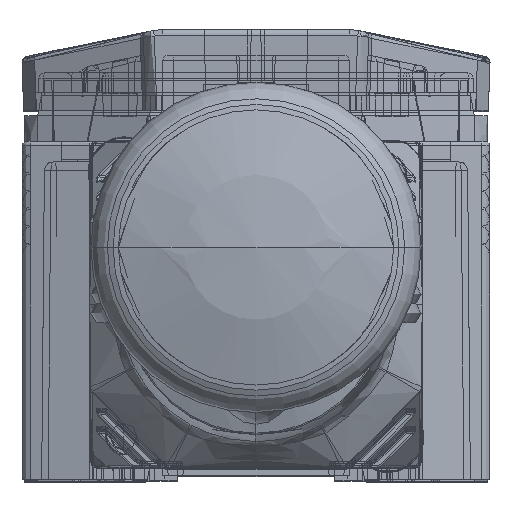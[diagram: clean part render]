
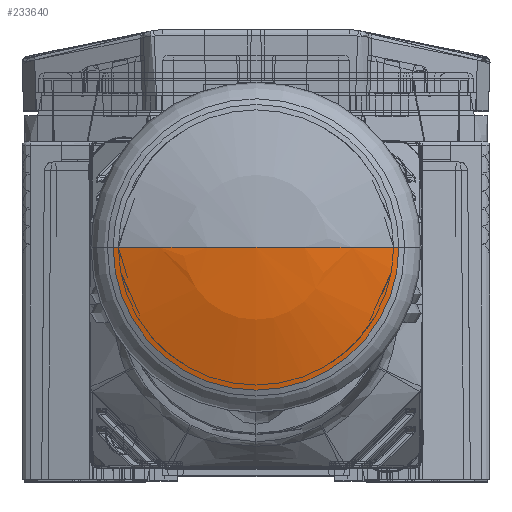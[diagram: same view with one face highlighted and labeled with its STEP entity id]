
A CAD part, top view. The second image highlights one B-rep face of the part: STEP entity #233640.
In plain terms, the highlighted spherical face has radius 40 mm.
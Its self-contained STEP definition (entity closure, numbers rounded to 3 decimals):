
#229316=CARTESIAN_POINT('',(0.,0.,2953.));
#229317=DIRECTION('',(0.,1.,0.));
#229318=DIRECTION('',(0.,0.,1.));
#229319=AXIS2_PLACEMENT_3D('',#229316,#229317,#229318);
#229324=CARTESIAN_POINT('',(0.,0.,2953.));
#229325=DIRECTION('',(0.,-1.,0.));
#229326=DIRECTION('',(0.,0.,1.));
#229327=AXIS2_PLACEMENT_3D('',#229324,#229325,#229326);
#229332=CARTESIAN_POINT('',(0.,0.,2990.838));
#229333=DIRECTION('',(0.,0.,-1.));
#229334=DIRECTION('',(1.,0.,0.));
#229335=AXIS2_PLACEMENT_3D('',#229332,#229333,#229334);
#231842=CARTESIAN_POINT('',(-12.973,0.,2990.838));
#231843=CARTESIAN_POINT('',(12.973,0.,2990.838));
#231844=VERTEX_POINT('',#231842);
#231845=VERTEX_POINT('',#231843);
#231846=CARTESIAN_POINT('',(0.,0.,2993.));
#231847=VERTEX_POINT('',#231846);
#233630=CARTESIAN_POINT('',(0.,0.,2953.));
#233631=DIRECTION('',(0.,0.,1.));
#233632=DIRECTION('',(1.,0.,0.));
#233633=AXIS2_PLACEMENT_3D('',#233630,#233631,#233632);
#233634=SPHERICAL_SURFACE('',#233633,40.);
#233635=ORIENTED_EDGE('',*,*,#233576,.T.);
#233636=ORIENTED_EDGE('',*,*,#233618,.F.);
#233637=ORIENTED_EDGE('',*,*,#233616,.T.);
#233638=EDGE_LOOP('',(#233635,#233636,#233637));
#233639=FACE_OUTER_BOUND('',#233638,.F.);
#229320=CIRCLE('',#229319,40.);
#229328=CIRCLE('',#229327,40.);
#229336=CIRCLE('',#229335,12.973);
#233576=EDGE_CURVE('',#231845,#231844,#229336,.T.);
#233616=EDGE_CURVE('',#231847,#231845,#229320,.T.);
#233618=EDGE_CURVE('',#231847,#231844,#229328,.T.);
#233640=ADVANCED_FACE('',(#233639),#233634,.T.);
